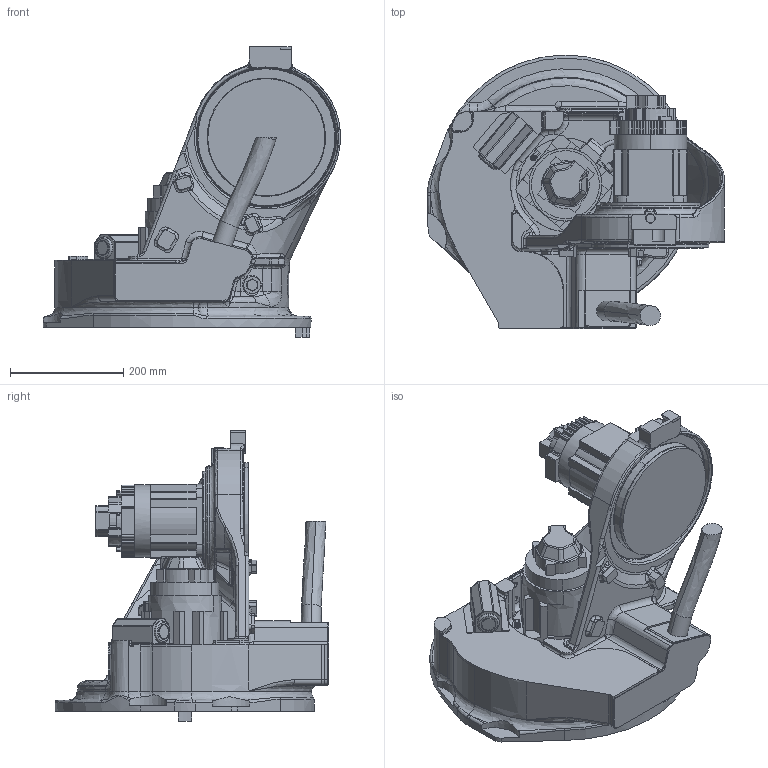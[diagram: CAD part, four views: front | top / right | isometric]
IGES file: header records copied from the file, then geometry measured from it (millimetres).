
Start section:  PTC IGES file: s_axis.igs
Global section: file name: s_axis.igs; native system: Creo Parametric by Parametric Technology Corporation; preprocessor: 2014000; author: Miyoshi_Nozomi; organization: Unknown; date: 20170720.143038; units: millimetre
Bounding box: 524.69 x 483.3 x 513.5 mm (x, y, z)
Volume: 23486966.2 mm3; surface area: 1199593.7 mm2
Topology: 1 solids, 6 shells, 1521 faces, 3964 edges, 2480 vertices
Faces by surface type: bspline 750, revolution 712, extrusion 59
